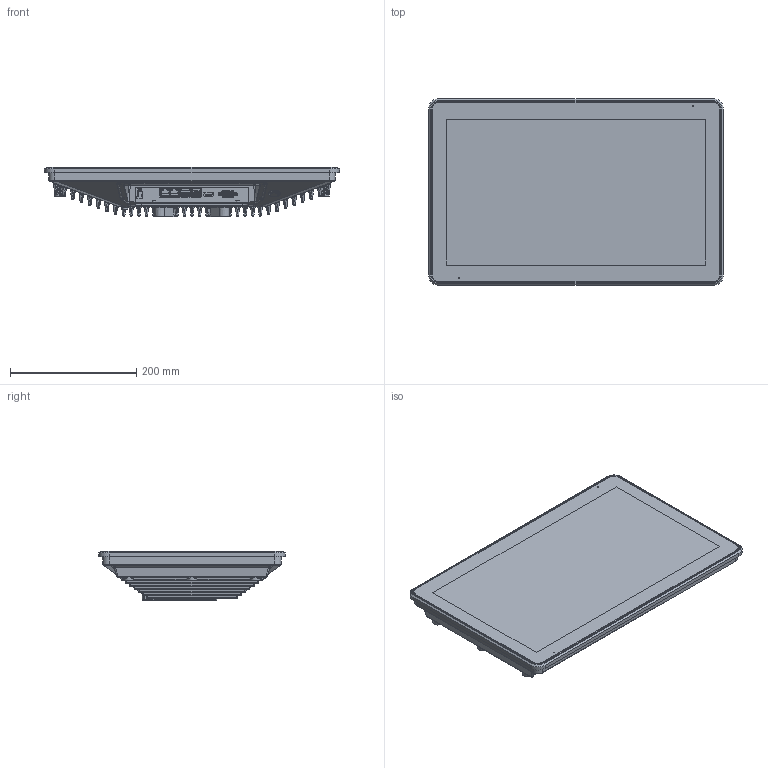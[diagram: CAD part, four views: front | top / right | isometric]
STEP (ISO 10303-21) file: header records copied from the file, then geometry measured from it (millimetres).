
FILE_DESCRIPTION(/* description */ (''),/* implementation_level */ '2;1');
FILE_NAME(/* name */ 'C:\SAPInventorWork\778-21967-00_EXTERN.stp',/* time_stamp */ '2025-01-31T14:02:34+01:00',/* author */ ('Aiple'),/* organization */ (''),/* preprocessor_version */ 'ST-DEVELOPER v18.1',/* originating_system */ 'Autodesk Inventor 2021',/* authorisation */ '');
FILE_SCHEMA (('AUTOMOTIVE_DESIGN { 1 0 10303 214 3 1 1 }'));
Products named in the file (1): 778-21967-00
Bounding box: 466.5 x 295.6 x 78.8 mm (x, y, z)
Volume: 5376480.3 mm3; surface area: 832282.5 mm2
Topology: 1 solids, 51 shells, 7573 faces, 20535 edges, 13024 vertices
Faces by surface type: plane 4144, cylinder 1971, bspline 961, cone 241, sphere 160, torus 96
Full cylindrical faces by diameter (mm): 0.609 x1, 0.65 x16, 0.95 x32, 1.5 x2, 2 x3, 2.013 x2, 2.156 x2, 2.459 x30, 2.5 x2, 2.794 x2, 2.8 x4, 2.845 x2, 3 x15, 3.2 x6, 3.242 x7, 3.4 x2, 3.5 x10, 3.783 x2, 4 x4, 4.134 x8, 4.22 x8, 4.3 x8, 4.6 x2, 4.7 x2, 4.917 x8, 4.96 x2, 5 x1, 5.3 x1, 5.38 x2, 5.4 x2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
Entity records: 314143 total; most frequent: CARTESIAN_POINT 118440, ORIENTED_EDGE 40838, DIRECTION 36742, EDGE_CURVE 20419, LINE 13352, VECTOR 13352, VERTEX_POINT 13024, AXIS2_PLACEMENT_3D 11695
